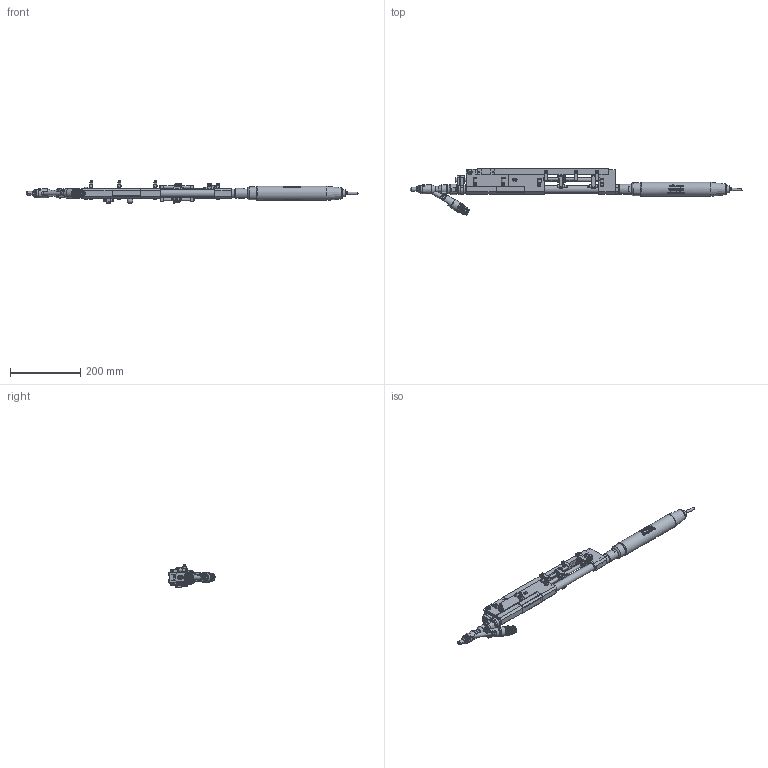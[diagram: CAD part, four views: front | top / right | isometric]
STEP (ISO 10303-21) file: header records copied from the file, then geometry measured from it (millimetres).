
FILE_DESCRIPTION(/* description */ ('© Copyright 2019 – Urheberrechtshinweis Diese CAD-Daten sind urheberrechtlich geschützt. Das Urheberrecht liegt, soweit nicht ausdrücklich anders gekennzeichnet, bei Stöger Automation GmbH. Bitte fragen Sie uns, falls Sie die CAD-Daten vervielfältigen oder'),/* implementation_level */ '2;1');
FILE_NAME(/* name */ 'H:\00_0 Arbeiten für Marketing\581105\581105.stp',/* time_stamp */ '2020-12-04T11:55:22+01:00',/* author */ ('Stöger Automation GmbH'),/* organization */ ('Stöger Automation GmbH'),/* preprocessor_version */ 'ST-DEVELOPER v17',/* originating_system */ 'Autodesk Inventor 2018',/* authorisation */ '');
FILE_SCHEMA (('CONFIG_CONTROL_DESIGN'));
Products named in the file (1): 581105
Bounding box: 945.14 x 131.18 x 65.1 mm (x, y, z)
Volume: 668697.9 mm3; surface area: 315210.9 mm2
Topology: 17 solids, 17 shells, 3765 faces, 10377 edges, 6907 vertices
Faces by surface type: plane 1955, cylinder 799, bspline 567, cone 343, torus 76, sphere 25
Full cylindrical faces by diameter (mm): 1.5 x6, 2 x2, 2.42 x3, 2.459 x3, 2.5 x1, 3 x6, 3.02 x3, 3.04 x3, 3.2 x3, 3.242 x5, 3.6 x2, 3.8 x3, 4 x4, 4.1 x1, 4.134 x20, 4.2 x1, 4.3 x4, 4.917 x8, 5 x10, 5.02 x2, 5.1 x2, 5.3 x1, 5.45 x2, 5.5 x3, 5.6 x1, 6 x7, 6.1 x4, 6.2 x1, 6.5 x5, 6.6 x4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
Entity records: 279086 total; most frequent: CARTESIAN_POINT 185829, ORIENTED_EDGE 20646, DIRECTION 16431, EDGE_CURVE 10323, VERTEX_POINT 6906, AXIS2_PLACEMENT_3D 6027, LINE 4377, VECTOR 4377
